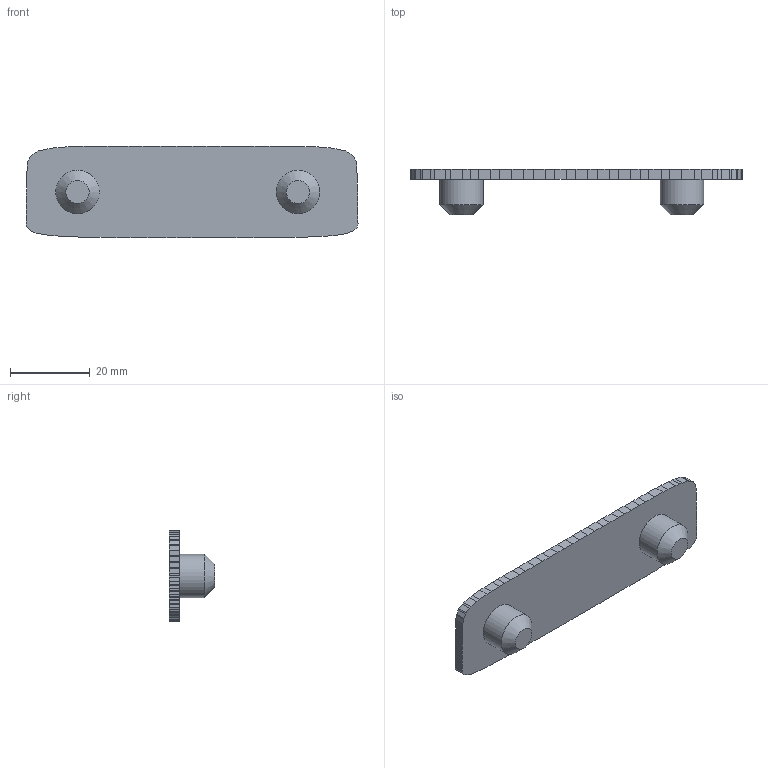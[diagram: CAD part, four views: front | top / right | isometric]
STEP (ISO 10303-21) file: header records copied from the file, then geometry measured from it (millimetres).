
FILE_DESCRIPTION(/* description */ (''),/* implementation_level */ '2;1');
FILE_NAME(/* name */ 'BlankPlate.step',/* time_stamp */ '2026-07-12T17:35:36-05:00',/* author */ (''),/* organization */ (''),/* preprocessor_version */ 'ST-DEVELOPER v20.1',/* originating_system */ 'Autodesk Translation Framework v15.8.0.0',/* authorisation */ '');
FILE_SCHEMA (('AUTOMOTIVE_DESIGN { 1 0 10303 214 3 1 1 }'));
Length unit declared in the file: inch
Products named in the file (1): BlankPlate
Bounding box: 83.42 x 11.43 x 23.09 mm (x, y, z)
Volume: 6230.9 mm3; surface area: 4746.9 mm2
Topology: 1 solids, 1 shells, 158 faces, 460 edges, 306 vertices
Faces by surface type: plane 154, cone 2, cylinder 2
Full cylindrical faces by diameter (mm): 10.922 x2
Entity records: 5156 total; most frequent: CARTESIAN_POINT 925, ORIENTED_EDGE 920, DIRECTION 784, EDGE_CURVE 460, LINE 454, VECTOR 454, VERTEX_POINT 306, AXIS2_PLACEMENT_3D 165
